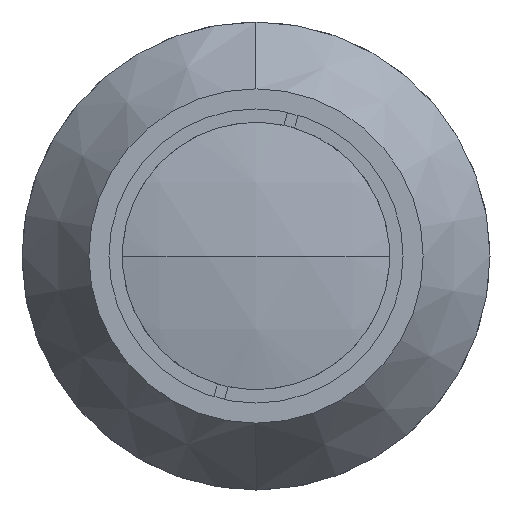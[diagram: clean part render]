
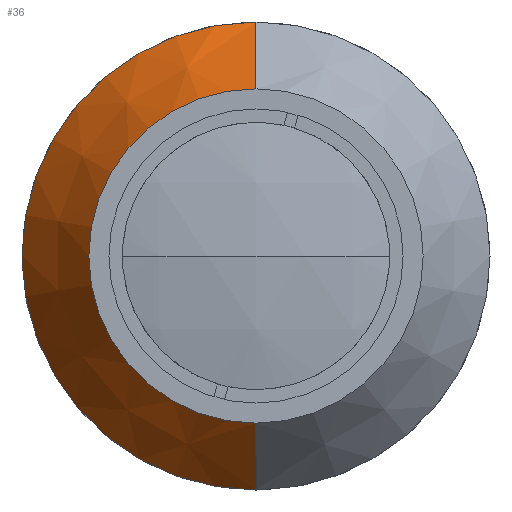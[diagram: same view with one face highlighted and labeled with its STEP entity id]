
A CAD part, left-side view. The second image highlights one B-rep face of the part: STEP entity #36.
In plain terms, the highlighted conical face has half-angle 35 degrees and reference radius 21 mm.
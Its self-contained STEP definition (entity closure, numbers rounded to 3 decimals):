
#36 = ADVANCED_FACE ( 'NONE', ( #3085 ), #3012, .T. ) ;
#94 = CARTESIAN_POINT ( 'NONE',  ( 15., 0., 15. ) ) ;
#195 = CARTESIAN_POINT ( 'NONE',  ( 15., 0., -15. ) ) ;
#279 = CARTESIAN_POINT ( 'NONE',  ( 23.569, 0., -21. ) ) ;
#510 = VERTEX_POINT ( 'NONE', #1823 ) ;
#531 = CARTESIAN_POINT ( 'NONE',  ( 23.569, 0., 21. ) ) ;
#1056 = AXIS2_PLACEMENT_3D ( 'NONE', #3325, #1432, #3581 ) ;
#1070 = AXIS2_PLACEMENT_3D ( 'NONE', #3569, #1749, #3813 ) ;
#1432 = DIRECTION ( 'NONE',  ( -1., 0., 0. ) ) ;
#1593 = ORIENTED_EDGE ( 'NONE', *, *, #3697, .F. ) ;
#1654 = ORIENTED_EDGE ( 'NONE', *, *, #3703, .T. ) ;
#1696 = ORIENTED_EDGE ( 'NONE', *, *, #3679, .T. ) ;
#1748 = ORIENTED_EDGE ( 'NONE', *, *, #3718, .F. ) ;
#1749 = DIRECTION ( 'NONE',  ( -1., 0., 0. ) ) ;
#1763 = DIRECTION ( 'NONE',  ( 0.819, 0., 0.574 ) ) ;
#1820 = EDGE_LOOP ( 'NONE', ( #1593, #1654, #1696, #1748 ) ) ;
#1823 = CARTESIAN_POINT ( 'NONE',  ( 23.569, 0., 21. ) ) ;
#1858 = VECTOR ( 'NONE', #2733, 1000. ) ;
#1910 = VECTOR ( 'NONE', #1763, 1000. ) ;
#1958 = LINE ( 'NONE', #279, #1858 ) ;
#1967 = CIRCLE ( 'NONE', #1056, 15. ) ;
#2063 = CIRCLE ( 'NONE', #1070, 21. ) ;
#2111 = LINE ( 'NONE', #531, #1910 ) ;
#2410 = CARTESIAN_POINT ( 'NONE',  ( 23.569, 0., 0. ) ) ;
#2423 = DIRECTION ( 'NONE',  ( 0., 0., -1. ) ) ;
#2733 = DIRECTION ( 'NONE',  ( 0.819, 0., -0.574 ) ) ;
#2737 = DIRECTION ( 'NONE',  ( 1., 0., 0. ) ) ;
#3012 = CONICAL_SURFACE ( 'NONE', #3565, 21., 0.611 ) ;
#3085 = FACE_OUTER_BOUND ( 'NONE', #1820, .T. ) ;
#3228 = CARTESIAN_POINT ( 'NONE',  ( 23.569, 0., -21. ) ) ;
#3237 = VERTEX_POINT ( 'NONE', #94 ) ;
#3325 = CARTESIAN_POINT ( 'NONE',  ( 15., 0., 0. ) ) ;
#3359 = VERTEX_POINT ( 'NONE', #3228 ) ;
#3534 = VERTEX_POINT ( 'NONE', #195 ) ;
#3565 = AXIS2_PLACEMENT_3D ( 'NONE', #2410, #2737, #2423 ) ;
#3569 = CARTESIAN_POINT ( 'NONE',  ( 23.569, 0., 0. ) ) ;
#3581 = DIRECTION ( 'NONE',  ( 0., 0., 1. ) ) ;
#3679 = EDGE_CURVE ( 'NONE', #510, #3359, #2063, .T. ) ;
#3697 = EDGE_CURVE ( 'NONE', #3237, #3534, #1967, .T. ) ;
#3703 = EDGE_CURVE ( 'NONE', #3237, #510, #2111, .T. ) ;
#3718 = EDGE_CURVE ( 'NONE', #3534, #3359, #1958, .T. ) ;
#3813 = DIRECTION ( 'NONE',  ( 0., 0., 1. ) ) ;
